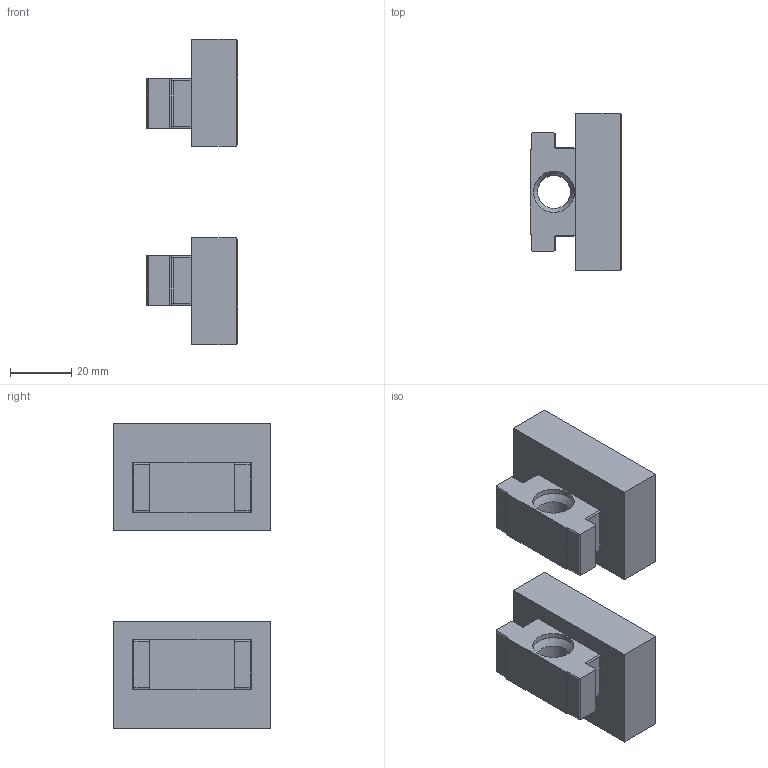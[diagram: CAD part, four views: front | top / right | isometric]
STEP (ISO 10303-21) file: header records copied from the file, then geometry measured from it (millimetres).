
FILE_DESCRIPTION (( 'STEP AP214' ), '1' );
FILE_NAME ('VSJ-V52TJ.STEP', '2026-09-29T18:51:16', ( '' ), ( '' ), 'SwSTEP 2.0', 'SolidWorks 2024', '' );
FILE_SCHEMA (( 'AUTOMOTIVE_DESIGN' ));
Length unit declared in the file: millimetre
Products named in the file (3): VSJ-V52IR-1; VSJ-V52TJ; VSJ-V52TJL-1
Assembly tree (2 placements, depth 2):
  VSJ-V52TJ
    VSJ-V52TJL-1
    VSJ-V52IR-1
Bounding box: 29.87 x 51.5 x 100 mm (x, y, z)
Volume: 67276.1 mm3; surface area: 16600 mm2
Topology: 2 solids, 2 shells, 128 faces, 312 edges, 190 vertices
Faces by surface type: plane 86, cylinder 38, cone 4
Full cylindrical faces by diameter (mm): 10.8 x2, 13.5 x4
Entity records: 3714 total; most frequent: CARTESIAN_POINT 669, DIRECTION 610, ORIENTED_EDGE 600, EDGE_CURVE 300, LINE 224, VECTOR 224, AXIS2_PLACEMENT_3D 193, VERTEX_POINT 188
